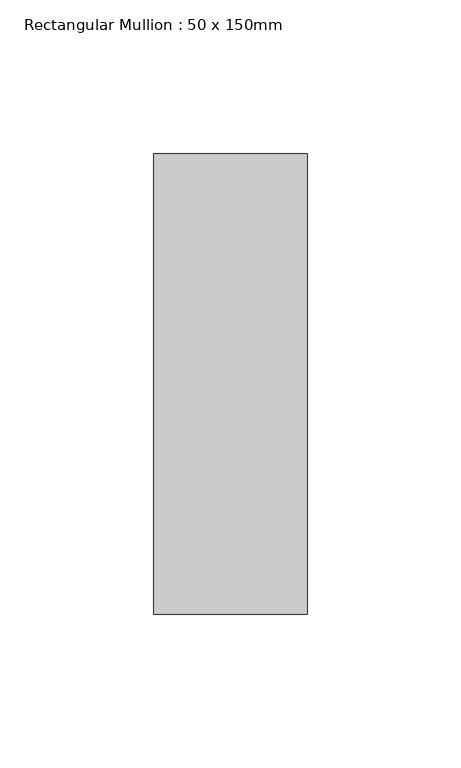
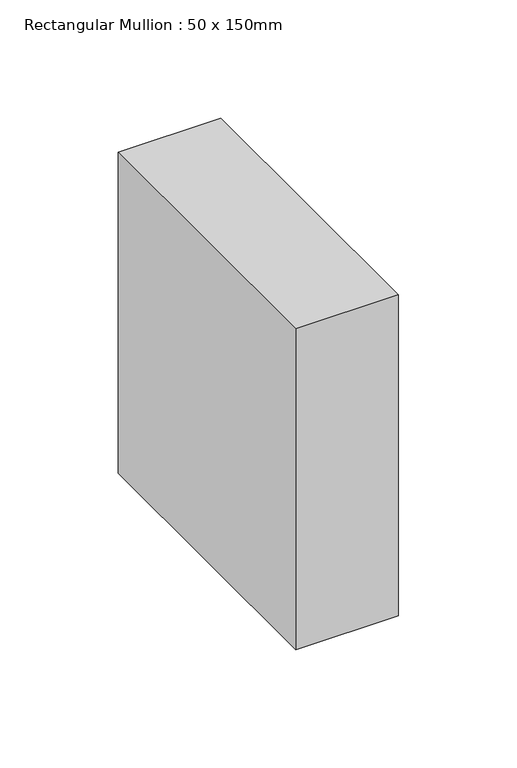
"""IFC4 building model written with IfcOpenShell, lengths in millimetres: member geometry, Rectangular Mullion : 50 x 150mm."""

from ifc_helpers import new_model, si_unit, frame, origin, place, context, project, spatial, polyline, outline, extrude, source, transform, mapped, element, save


def rectangular_mullion_50_x_150mm_197850da(model_context):
    return source(origin(), model_context, "Body", "SweptSolid", [
        extrude(outline(polyline([(0.0, 75.0), (0.0, -75.0), (-50.0, -75.0), (-50.0, 75.0), (0.0, 75.0)])), frame((0.0, 0.0, -165.62411), z_axis=(0.0, 0.0, 1.0), x_axis=(1.0, 0.0, 0.0)), (0.0, 0.0, 1.0), 165.62411),
    ])


if __name__ == "__main__":
    model = new_model("IFC4")
    model_context = context("Model", 3, world=origin())
    ifc_project = project(units=[si_unit("LENGTHUNIT", "METRE", prefix="MILLI")], contexts=[model_context])
    site = spatial("IfcSite", under=ifc_project)
    building = spatial("IfcBuilding", under=site)
    placement = place(None, origin())
    rectangular_mullion_50_x_150mm_shape = rectangular_mullion_50_x_150mm_197850da(model_context)
    element("IfcMember", 1, ObjectType="Rectangular Mullion : 50 x 150mm", at=placement, inside=building, context=model_context, shape_type="MappedRepresentation", body=[
        mapped(rectangular_mullion_50_x_150mm_shape, transform((0.0, 0.0, 0.0), x_axis=(1.0, 0.0, 0.0), y_axis=(0.0, 1.0, 0.0), z_axis=(0.0, 0.0, 1.0))),
    ])
    save(model, "model.ifc")
